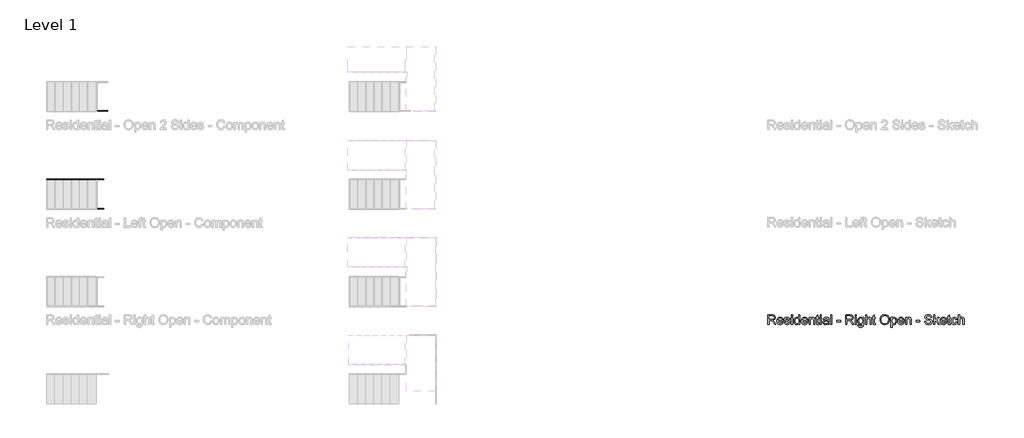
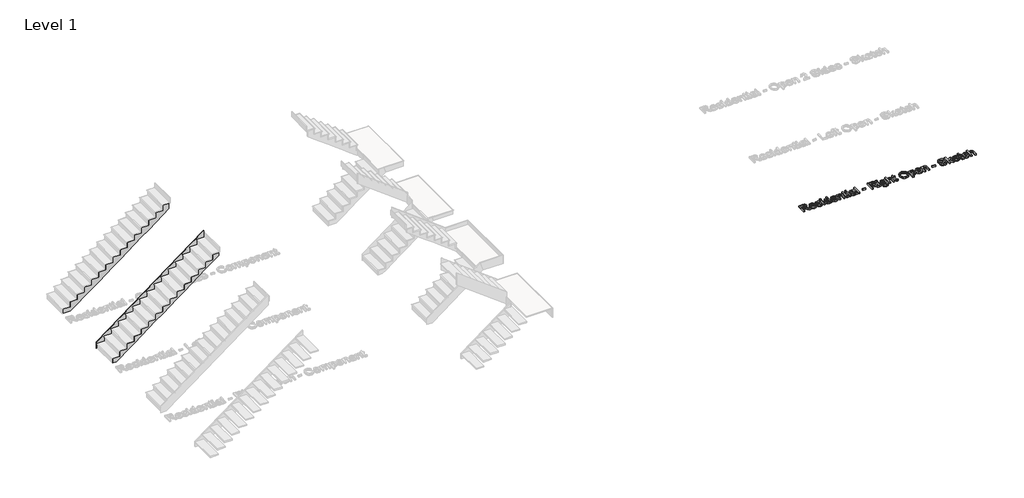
# One storey, part 13 of 26: 3 members, 1 proxy.
"""IFC4 building model written with IfcOpenShell, lengths in millimetres."""

from ifc_helpers import new_model, si_unit, frame, origin, origin_with_axes, place, context, project, spatial, polyline, outline, extrude, faceted_brep, element, save

model = new_model("IFC4")

# Units and contexts
model_context = context("Model", 3, world=origin())
ifc_project = project(units=[si_unit("LENGTHUNIT", "METRE", prefix="MILLI")], contexts=[model_context])

# Site, building, storey
site = spatial("IfcSite", under=ifc_project)
building = spatial("IfcBuilding", under=site)
storey = spatial("IfcBuildingStorey", under=building, Name="Level 1", Elevation=0.0)

# Proxy
placement = place(None, origin())
element("IfcBuildingElementProxy", 1, Name="12\" Arial", ObjectType="12\" Arial", at=placement, inside=storey, context=model_context, shape_type="SweptSolid", body=[
    extrude(outline(polyline([(-4715.4981187, -2715.1232123), (-4715.4981187, -2415.012443), (-4586.1779264, -2415.012443), (-4551.420835, -2417.0365055), (-4526.1337918, -2423.108693), (-4507.6516283, -2434.3188854), (-4493.3091764, -2451.7569623), (-4484.1047293, -2473.380544), (-4481.0365802, -2497.1472507), (-4486.1196331, -2526.7113854), (-4501.3687918, -2551.219943), (-4512.9201439, -2561.2074551), (-4527.2419889, -2569.1892219), (-4564.1971571, -2579.13552), (-4542.875811, -2595.1814815), (-4512.4690802, -2633.7943661), (-4462.4261956, -2715.1232123), (-4506.0213879, -2715.1232123), (-4545.0738879, -2652.9176354), (-4573.2825418, -2611.7403277), (-4593.1018687, -2592.2873469), (-4610.9429264, -2585.1435969), (-4632.7038879, -2583.8247507), (-4677.9842725, -2583.8247507), (-4677.9842725, -2715.1232123), (-4715.4981187, -2715.1232123)]), holes=[polyline([(-4677.9842725, -2546.3109046), (-4594.0177341, -2546.3109046), (-4569.9029985, -2544.9828998), (-4551.1918687, -2540.9988854), (-4537.1058591, -2534.0932604), (-4526.8664841, -2524.0004238), (-4520.6294408, -2511.7919382), (-4518.5504264, -2498.5393661), (-4522.5161235, -2480.2403757), (-4534.4132148, -2465.494943), (-4554.8828062, -2455.7684527), (-4584.5660033, -2452.5262892), (-4677.9842725, -2452.5262892), (-4677.9842725, -2546.3109046)])]), origin_with_axes(), (0.0, 0.0, 1.0), 50.8),
    extrude(outline(polyline([(-4265.7715802, -2649.4739815), (-4228.9904264, -2654.1632123), (-4242.2429985, -2681.8772988), (-4263.3903302, -2702.5941738), (-4291.9561716, -2715.5078757), (-4327.4642725, -2719.812443), (-4350.7409913, -2717.955526), (-4371.4807629, -2712.3847748), (-4389.6835874, -2703.1001894), (-4405.3494648, -2690.10177), (-4417.9471932, -2673.7512832), (-4426.9455706, -2654.4104959), (-4432.344597, -2632.0794082), (-4434.1442725, -2606.75802), (-4432.3262797, -2580.5780079), (-4426.8723014, -2557.5027796), (-4417.7823374, -2537.5323349), (-4405.0563879, -2520.6666738), (-4389.4317244, -2507.2675632), (-4371.6456187, -2497.69677), (-4351.6980706, -2491.954294), (-4329.5890802, -2490.0401354), (-4308.1921752, -2491.9497147), (-4288.8422293, -2497.6784527), (-4271.5392425, -2507.2263493), (-4256.2832148, -2520.5934046), (-4243.8297353, -2537.422431), (-4234.9343927, -2557.3562411), (-4229.5971872, -2580.3948349), (-4227.8181187, -2606.5382123), (-4228.0379264, -2616.6493661), (-4396.6304264, -2616.6493661), (-4390.1369408, -2644.7297988), (-4375.0526379, -2665.3734046), (-4353.2825177, -2678.0672988), (-4326.7315802, -2682.2985969), (-4306.7657148, -2680.338645), (-4289.9504264, -2674.4587892), (-4276.2857148, -2664.2926834), (-4265.7715802, -2649.4739815)]), holes=[polyline([(-4396.6304264, -2579.13552), (-4265.3319648, -2579.13552), (-4270.4058591, -2559.316193), (-4280.3521571, -2545.1385969), (-4302.2230225, -2531.9501354), (-4329.7356187, -2527.5539815), (-4355.0226619, -2531.0617459), (-4375.9318687, -2541.5850392), (-4390.4666523, -2557.9881882), (-4396.6304264, -2579.13552)])]), origin_with_axes(), (0.0, 0.0, 1.0), 50.8),
    extrude(outline(polyline([(-4204.3719648, -2649.4739815), (-4166.8581187, -2644.7847507), (-4160.9416283, -2660.8307123), (-4149.493311, -2672.6270584), (-4132.4398975, -2679.8807123), (-4109.7081187, -2682.2985969), (-4087.2510994, -2680.0822027), (-4071.4615802, -2673.43302), (-4062.1197533, -2663.7981161), (-4059.005811, -2652.6245584), (-4062.1380706, -2643.0629238), (-4071.5348494, -2635.7726354), (-4110.1477341, -2625.0753277), (-4166.638311, -2606.7213854), (-4180.9349696, -2597.4986209), (-4191.2934071, -2585.2901354), (-4197.5854023, -2570.8744142), (-4199.6827341, -2555.029943), (-4197.9975418, -2540.4951594), (-4192.9419648, -2527.0777315), (-4184.973936, -2515.3088613), (-4174.5513879, -2505.7197507), (-4150.7022533, -2494.6194623), (-4118.4271571, -2490.0401354), (-4094.010186, -2491.8810248), (-4072.7804264, -2497.403693), (-4055.7086956, -2506.0677796), (-4043.765811, -2517.3329238), (-4035.8527341, -2532.0325632), (-4030.8704264, -2551.0001354), (-4068.3842725, -2555.6893661), (-4073.1192966, -2543.8838613), (-4082.4885994, -2534.9908084), (-4096.5837677, -2529.4131882), (-4115.4963879, -2527.5539815), (-4137.0375418, -2529.3307604), (-4151.398311, -2534.6610969), (-4159.4762437, -2542.3543661), (-4162.1688879, -2551.219943), (-4157.6994648, -2562.1370584), (-4143.7050418, -2570.4164815), (-4111.393311, -2578.4028277), (-4056.3314841, -2596.0607123), (-4041.7875418, -2604.5049911), (-4030.7605225, -2616.0632123), (-4023.8091043, -2630.7720104), (-4021.4919648, -2648.66802), (-4024.212085, -2667.1685007), (-4032.3724456, -2684.569943), (-4045.6616523, -2699.5077075), (-4063.768311, -2710.6171546), (-4085.6391764, -2717.5136209), (-4110.2210033, -2719.812443), (-4148.0462437, -2715.3796546), (-4175.6504264, -2702.0812892), (-4194.0776379, -2680.0638854), (-4204.3719648, -2649.4739815)])), origin_with_axes(), (0.0, 0.0, 1.0), 50.8),
    extrude(outline(polyline([(-3979.2888879, -2715.1232123), (-3979.2888879, -2494.7293661), (-3941.7750418, -2494.7293661), (-3941.7750418, -2715.1232123), (-3979.2888879, -2715.1232123)])), origin_with_axes(), (0.0, 0.0, 1.0), 50.8),
    extrude(outline(polyline([(-3979.2888879, -2452.5262892), (-3979.2888879, -2415.012443), (-3941.7750418, -2415.012443), (-3941.7750418, -2452.5262892), (-3979.2888879, -2452.5262892)])), origin_with_axes(), (0.0, 0.0, 1.0), 50.8),
    extrude(outline(polyline([(-3749.5165802, -2715.1232123), (-3749.5165802, -2679.7341738), (-3760.7405105, -2697.2684166), (-3774.3365321, -2709.7928757), (-3790.3046451, -2717.3075512), (-3808.6448494, -2719.812443), (-3832.8969648, -2716.1856161), (-3855.0975418, -2705.3051354), (-3873.8910994, -2687.931169), (-3887.9221571, -2664.8238854), (-3896.6595129, -2636.9174671), (-3899.5719648, -2605.1460969), (-3896.8884793, -2573.7685488), (-3888.8380225, -2545.4316738), (-3875.4297533, -2521.747395), (-3856.6728302, -2504.3276354), (-3833.9868446, -2493.6120104), (-3808.7913879, -2490.0401354), (-3790.4374456, -2492.5953998), (-3774.208311, -2500.261193), (-3760.4520129, -2512.0117459), (-3749.5165802, -2526.8212892), (-3749.5165802, -2415.012443), (-3712.0027341, -2415.012443), (-3712.0027341, -2715.1232123), (-3749.5165802, -2715.1232123)]), holes=[polyline([(-3862.0581187, -2604.9995584), (-3857.8268206, -2638.9323709), (-3845.1329264, -2663.0654238), (-3826.6873975, -2677.4903036), (-3805.2011956, -2682.2985969), (-3783.7241523, -2677.7101113), (-3765.7457148, -2663.9446546), (-3753.5738639, -2640.7457844), (-3749.5165802, -2607.8570584), (-3753.6471331, -2571.9001834), (-3766.0387918, -2546.9703277), (-3784.4751619, -2532.408068), (-3806.7398494, -2527.5539815), (-3828.4458591, -2532.2157363), (-3846.2319648, -2546.2010007), (-3858.1015802, -2570.2241498), (-3862.0581187, -2604.9995584)])]), origin_with_axes(), (0.0, 0.0, 1.0), 50.8),
    extrude(outline(polyline([(-3501.4269648, -2649.4739815), (-3464.645811, -2654.1632123), (-3477.8983831, -2681.8772988), (-3499.0457148, -2702.5941738), (-3527.6115562, -2715.5078757), (-3563.1196571, -2719.812443), (-3586.3963759, -2717.955526), (-3607.1361475, -2712.3847748), (-3625.338972, -2703.1001894), (-3641.0048494, -2690.10177), (-3653.6025778, -2673.7512832), (-3662.6009552, -2654.4104959), (-3667.9999817, -2632.0794082), (-3669.7996571, -2606.75802), (-3667.9816643, -2580.5780079), (-3662.527686, -2557.5027796), (-3653.437722, -2537.5323349), (-3640.7117725, -2520.6666738), (-3625.0871091, -2507.2675632), (-3607.3010033, -2497.69677), (-3587.3534552, -2491.954294), (-3565.2444648, -2490.0401354), (-3543.8475598, -2491.9497147), (-3524.4976139, -2497.6784527), (-3507.1946271, -2507.2263493), (-3491.9385994, -2520.5934046), (-3479.4851199, -2537.422431), (-3470.5897773, -2557.3562411), (-3465.2525718, -2580.3948349), (-3463.4735033, -2606.5382123), (-3463.693311, -2616.6493661), (-3632.285811, -2616.6493661), (-3625.7923254, -2644.7297988), (-3610.7080225, -2665.3734046), (-3588.9379023, -2678.0672988), (-3562.3869648, -2682.2985969), (-3542.4210994, -2680.338645), (-3525.605811, -2674.4587892), (-3511.9410994, -2664.2926834), (-3501.4269648, -2649.4739815)]), holes=[polyline([(-3632.285811, -2579.13552), (-3500.9873494, -2579.13552), (-3506.0612437, -2559.316193), (-3516.0075418, -2545.1385969), (-3537.8784071, -2531.9501354), (-3565.3910033, -2527.5539815), (-3590.6780466, -2531.0617459), (-3611.5872533, -2541.5850392), (-3626.1220369, -2557.9881882), (-3632.285811, -2579.13552)])]), origin_with_axes(), (0.0, 0.0, 1.0), 50.8),
    extrude(outline(polyline([(-3425.9596571, -2715.1232123), (-3425.9596571, -2494.7293661), (-3388.445811, -2494.7293661), (-3388.445811, -2525.502443), (-3375.4130466, -2509.9876834), (-3359.7609071, -2498.9057123), (-3341.4893927, -2492.2565296), (-3320.5985033, -2490.0401354), (-3302.1071812, -2491.8260729), (-3285.1728302, -2497.1838854), (-3271.050186, -2505.4449911), (-3260.9939841, -2515.9408084), (-3249.7471571, -2543.5266738), (-3247.7688879, -2579.794943), (-3247.7688879, -2715.1232123), (-3285.2827341, -2715.1232123), (-3285.2827341, -2584.85052), (-3289.6056187, -2551.6595584), (-3295.5862196, -2541.7773709), (-3304.8822533, -2534.1115777), (-3316.7976619, -2529.1933805), (-3330.6363879, -2527.5539815), (-3352.6079985, -2531.2357604), (-3371.3374456, -2542.2810969), (-3378.8223555, -2551.2977916), (-3384.1687196, -2563.6207604), (-3388.445811, -2598.18552), (-3388.445811, -2715.1232123), (-3425.9596571, -2715.1232123)])), origin_with_axes(), (0.0, 0.0, 1.0), 50.8),
    extrude(outline(polyline([(-3116.4704264, -2683.8372507), (-3111.7811956, -2716.2222507), (-3139.843311, -2719.812443), (-3157.8492244, -2718.2554719), (-3171.275811, -2713.5845584), (-3180.7641764, -2706.3858565), (-3186.9554264, -2697.24552), (-3190.3624456, -2681.5475873), (-3191.4981187, -2654.6760969), (-3191.4981187, -2532.2432123), (-3219.6335033, -2532.2432123), (-3219.6335033, -2494.7293661), (-3191.4981187, -2494.7293661), (-3191.4981187, -2441.1695584), (-3153.9842725, -2419.11552), (-3153.9842725, -2494.7293661), (-3116.4704264, -2494.7293661), (-3116.4704264, -2532.2432123), (-3153.9842725, -2532.2432123), (-3153.9842725, -2653.5770584), (-3152.0060033, -2672.9201354), (-3145.5949456, -2679.7708084), (-3132.8094648, -2682.2985969), (-3116.4704264, -2683.8372507)])), origin_with_axes(), (0.0, 0.0, 1.0), 50.8),
    extrude(outline(polyline([(-3078.9565802, -2715.1232123), (-3078.9565802, -2494.7293661), (-3041.4427341, -2494.7293661), (-3041.4427341, -2715.1232123), (-3078.9565802, -2715.1232123)])), origin_with_axes(), (0.0, 0.0, 1.0), 50.8),
    extrude(outline(polyline([(-3078.9565802, -2452.5262892), (-3078.9565802, -2415.012443), (-3041.4427341, -2415.012443), (-3041.4427341, -2452.5262892), (-3078.9565802, -2452.5262892)])), origin_with_axes(), (0.0, 0.0, 1.0), 50.8),
    extrude(outline(polyline([(-2844.4950418, -2686.9878277), (-2862.4185273, -2702.3560488), (-2880.8732148, -2712.4122507), (-2900.2804023, -2717.962395), (-2921.0613879, -2719.812443), (-2952.41146, -2715.3613373), (-2975.537061, -2702.00802), (-2989.797085, -2681.7307604), (-2994.5504264, -2656.5078277), (-2992.7553302, -2640.9564334), (-2987.3700418, -2626.8337892), (-2979.0631427, -2614.7443661), (-2968.5032148, -2605.2926354), (-2942.2361956, -2592.9834046), (-2909.7779264, -2587.3416738), (-2871.4214841, -2581.4068661), (-2844.7148494, -2574.4462892), (-2844.4950418, -2566.0935969), (-2847.0777821, -2549.3515777), (-2854.8260033, -2538.3978277), (-2872.1541764, -2530.264943), (-2896.2963879, -2527.5539815), (-2918.6435033, -2529.3582363), (-2934.2498494, -2534.7710007), (-2944.8922052, -2544.7814094), (-2952.3473494, -2560.3785969), (-2989.8611956, -2555.6893661), (-2983.3493927, -2535.1739815), (-2973.632061, -2519.0547507), (-2959.8024937, -2506.7272027), (-2940.9539841, -2497.5868661), (-2917.9016523, -2491.926818), (-2891.4606187, -2490.0401354), (-2866.1003062, -2491.7070104), (-2845.997061, -2496.7076354), (-2830.8394889, -2504.2268902), (-2820.3161956, -2513.4496546), (-2813.3373014, -2524.8521786), (-2808.8129264, -2538.9107123), (-2806.9811956, -2571.7353277), (-2806.9811956, -2618.4078277), (-2805.0761956, -2683.5808084), (-2797.6027341, -2715.1232123), (-2835.1165802, -2715.1232123), (-2844.4950418, -2686.9878277)]), holes=[polyline([(-2844.4950418, -2611.9601354), (-2905.0154264, -2623.4634046), (-2937.2905225, -2629.5447507), (-2951.9077341, -2639.4360969), (-2957.0365802, -2653.8701354), (-2954.2431908, -2665.0253757), (-2945.8630225, -2674.1657123), (-2932.0792485, -2680.2653757), (-2913.0750418, -2682.2985969), (-2892.9260033, -2680.0547267), (-2875.1215802, -2673.3231161), (-2860.6875418, -2663.404294), (-2850.6496571, -2651.5987892), (-2846.1985514, -2639.4360969), (-2844.7148494, -2622.5841738), (-2844.4950418, -2611.9601354)])]), origin_with_axes(), (0.0, 0.0, 1.0), 50.8),
    extrude(outline(polyline([(-2755.3996571, -2715.1232123), (-2755.3996571, -2415.012443), (-2717.885811, -2415.012443), (-2717.885811, -2715.1232123), (-2755.3996571, -2715.1232123)])), origin_with_axes(), (0.0, 0.0, 1.0), 50.8),
    extrude(outline(polyline([(-2563.1411956, -2626.0278277), (-2563.1411956, -2588.5139815), (-2445.9104264, -2588.5139815), (-2445.9104264, -2626.0278277), (-2563.1411956, -2626.0278277)])), origin_with_axes(), (0.0, 0.0, 1.0), 50.8),
    extrude(outline(polyline([(-2281.7873494, -2715.1232123), (-2281.7873494, -2415.012443), (-2152.4671571, -2415.012443), (-2117.7100658, -2417.0365055), (-2092.4230225, -2423.108693), (-2073.9408591, -2434.3188854), (-2059.5984071, -2451.7569623), (-2050.39396, -2473.380544), (-2047.325811, -2497.1472507), (-2052.4088639, -2526.7113854), (-2067.6580225, -2551.219943), (-2079.2093747, -2561.2074551), (-2093.5312196, -2569.1892219), (-2130.4863879, -2579.13552), (-2109.1650418, -2595.1814815), (-2078.758311, -2633.7943661), (-2028.7154264, -2715.1232123), (-2072.3106187, -2715.1232123), (-2111.3631187, -2652.9176354), (-2139.5717725, -2611.7403277), (-2159.3910994, -2592.2873469), (-2177.2321571, -2585.1435969), (-2198.9931187, -2583.8247507), (-2244.2735033, -2583.8247507), (-2244.2735033, -2715.1232123), (-2281.7873494, -2715.1232123)]), holes=[polyline([(-2244.2735033, -2546.3109046), (-2160.3069648, -2546.3109046), (-2136.1922293, -2544.9828998), (-2117.4810994, -2540.9988854), (-2103.3950898, -2534.0932604), (-2093.1557148, -2524.0004238), (-2086.9186716, -2511.7919382), (-2084.8396571, -2498.5393661), (-2088.8053543, -2480.2403757), (-2100.7024456, -2465.494943), (-2121.1720369, -2455.7684527), (-2150.8552341, -2452.5262892), (-2244.2735033, -2452.5262892), (-2244.2735033, -2546.3109046)])]), origin_with_axes(), (0.0, 0.0, 1.0), 50.8),
    extrude(outline(polyline([(-1986.365811, -2715.1232123), (-1986.365811, -2494.7293661), (-1948.8519648, -2494.7293661), (-1948.8519648, -2715.1232123), (-1986.365811, -2715.1232123)])), origin_with_axes(), (0.0, 0.0, 1.0), 50.8),
    extrude(outline(polyline([(-1986.365811, -2452.5262892), (-1986.365811, -2415.012443), (-1948.8519648, -2415.012443), (-1948.8519648, -2452.5262892), (-1986.365811, -2452.5262892)])), origin_with_axes(), (0.0, 0.0, 1.0), 50.8),
    extrude(outline(polyline([(-1901.9596571, -2733.8801354), (-1864.445811, -2738.5693661), (-1860.3060994, -2750.292443), (-1852.2831187, -2758.3520584), (-1836.5119168, -2764.6165777), (-1815.868311, -2766.7047507), (-1793.8509071, -2764.341818), (-1777.4752341, -2757.25302), (-1766.1185033, -2745.8962892), (-1759.1579264, -2730.7295584), (-1756.5935033, -2686.9878277), (-1769.0767485, -2699.2970584), (-1783.007061, -2708.0893661), (-1798.3844408, -2713.3647507), (-1815.2088879, -2715.1232123), (-1835.7769348, -2713.0762531), (-1853.8858831, -2706.9353757), (-1869.5357329, -2696.7005801), (-1882.7264841, -2682.3718661), (-1893.1925357, -2665.1810729), (-1900.6682869, -2646.3600392), (-1905.1537377, -2625.9087652), (-1906.6488879, -2603.8272507), (-1903.9654023, -2573.5395825), (-1895.9149456, -2545.6881161), (-1882.781436, -2522.0862652), (-1864.8487918, -2504.547443), (-1842.7306427, -2493.6669623), (-1817.0406187, -2490.0401354), (-1799.4972172, -2492.0916738), (-1783.5748975, -2498.2462892), (-1769.2736595, -2508.5039815), (-1756.5935033, -2522.8647507), (-1756.5935033, -2494.7293661), (-1719.0796571, -2494.7293661), (-1719.0796571, -2685.0095584), (-1721.6440802, -2728.9436209), (-1729.3373494, -2757.8758084), (-1742.5899216, -2777.0631882), (-1761.8322533, -2791.7628277), (-1786.6430466, -2801.1046546), (-1816.6010033, -2804.2185969), (-1851.5046331, -2799.8316017), (-1878.9897533, -2786.6706161), (-1889.3413218, -2776.7907183), (-1896.6201619, -2764.6990055), (-1900.8262737, -2750.3954779), (-1901.9596571, -2733.8801354)]), holes=[polyline([(-1869.1350418, -2601.2628277), (-1865.13271, -2635.6718902), (-1853.1257148, -2659.328693), (-1835.0740081, -2673.0391979), (-1812.9375418, -2677.6093661), (-1790.9659312, -2673.0666738), (-1772.8226379, -2659.4385969), (-1760.6507869, -2636.0840296), (-1756.5935033, -2602.3618661), (-1760.7698494, -2569.8394863), (-1773.2988879, -2546.4208084), (-1791.7077821, -2532.2706882), (-1813.5236956, -2527.5539815), (-1834.9457869, -2532.197419), (-1852.9059071, -2546.1277315), (-1865.0777581, -2569.1983805), (-1869.1350418, -2601.2628277)])]), origin_with_axes(), (0.0, 0.0, 1.0), 50.8),
    extrude(outline(polyline([(-1662.8088879, -2715.1232123), (-1662.8088879, -2415.012443), (-1625.2950418, -2415.012443), (-1625.2950418, -2525.3559046), (-1611.515847, -2509.9052555), (-1596.0423014, -2498.8690777), (-1578.8744047, -2492.2473709), (-1560.0121571, -2490.0401354), (-1537.3536475, -2492.4488613), (-1517.8823494, -2499.6750392), (-1502.5507629, -2511.1508325), (-1492.3113879, -2526.3084046), (-1486.541436, -2547.1351834), (-1484.6181187, -2575.6185969), (-1484.6181187, -2715.1232123), (-1522.1319648, -2715.1232123), (-1522.1319648, -2579.5018661), (-1525.117686, -2556.0190777), (-1534.0748494, -2539.9364815), (-1548.5088879, -2530.6496065), (-1567.9252341, -2527.5539815), (-1583.7788639, -2529.6421546), (-1598.6616764, -2535.9066738), (-1610.9892244, -2545.743068), (-1619.177061, -2558.5468661), (-1623.7655466, -2575.563645), (-1625.2950418, -2598.0389815), (-1625.2950418, -2715.1232123), (-1662.8088879, -2715.1232123)])), origin_with_axes(), (0.0, 0.0, 1.0), 50.8),
    extrude(outline(polyline([(-1353.3196571, -2683.8372507), (-1348.6304264, -2716.2222507), (-1376.6925418, -2719.812443), (-1394.6984552, -2718.2554719), (-1408.1250418, -2713.5845584), (-1417.6134071, -2706.3858565), (-1423.8046571, -2697.24552), (-1427.2116764, -2681.5475873), (-1428.3473494, -2654.6760969), (-1428.3473494, -2532.2432123), (-1456.4827341, -2532.2432123), (-1456.4827341, -2494.7293661), (-1428.3473494, -2494.7293661), (-1428.3473494, -2441.1695584), (-1390.8335033, -2419.11552), (-1390.8335033, -2494.7293661), (-1353.3196571, -2494.7293661), (-1353.3196571, -2532.2432123), (-1390.8335033, -2532.2432123), (-1390.8335033, -2653.5770584), (-1388.8552341, -2672.9201354), (-1382.4441764, -2679.7708084), (-1369.6586956, -2682.2985969), (-1353.3196571, -2683.8372507)])), origin_with_axes(), (0.0, 0.0, 1.0), 50.8),
    extrude(outline(polyline([(-1207.9535033, -2569.0243661), (-1205.4531908, -2533.8230801), (-1197.9522533, -2502.6607604), (-1185.4506908, -2475.537407), (-1167.9485033, -2452.45302), (-1146.4943567, -2434.0212291), (-1122.1369168, -2420.8556642), (-1094.8761836, -2412.9563253), (-1064.7121571, -2410.3232123), (-1025.3482629, -2415.2688854), (-990.050811, -2430.1059046), (-960.7431187, -2453.7901834), (-939.3485033, -2485.2776354), (-926.2699456, -2523.0479238), (-921.9104264, -2565.5807123), (-926.4989119, -2608.6813373), (-940.2643687, -2646.9828277), (-962.4466283, -2678.5252315), (-992.2855225, -2701.3485969), (-1027.2807389, -2715.1964815), (-1064.9319648, -2719.812443), (-1104.9003302, -2714.7110729), (-1140.3992725, -2699.4069623), (-1169.6336956, -2675.283068), (-1190.8085033, -2643.7223469), (-1203.6672533, -2607.4082844), (-1207.9535033, -2569.0243661)]), holes=[polyline([(-1170.4396571, -2569.3907123), (-1168.5644228, -2594.2610368), (-1162.9387196, -2616.3379719), (-1153.5625478, -2635.6215176), (-1140.4359071, -2652.1116738), (-1124.4792425, -2665.3184527), (-1106.6129985, -2674.7518661), (-1086.8371752, -2680.4119142), (-1065.1517725, -2682.2985969), (-1043.0954444, -2680.3935969), (-1023.0860754, -2674.6785969), (-1005.1236655, -2665.1535969), (-989.2082148, -2651.8185969), (-976.1777401, -2634.9804118), (-966.8702581, -2614.9458565), (-961.2857689, -2591.714931), (-959.4242725, -2565.2876354), (-962.6114841, -2532.0783565), (-972.1731187, -2503.3751354), (-987.8618927, -2479.9015055), (-1009.4305225, -2462.3810007), (-1035.4502581, -2451.473044), (-1064.4923494, -2447.8370584), (-1085.4244528, -2449.588651), (-1104.8453783, -2454.8434286), (-1122.7551259, -2463.6013914), (-1139.1536956, -2475.8625392), (-1152.8413038, -2492.2176053), (-1162.6181668, -2513.2573229), (-1168.4842845, -2538.9816918), (-1170.4396571, -2569.3907123)])]), origin_with_axes(), (0.0, 0.0, 1.0), 50.8),
    extrude(outline(polyline([(-875.0181187, -2799.5293661), (-875.0181187, -2494.7293661), (-837.5042725, -2494.7293661), (-837.5042725, -2531.51052), (-825.268311, -2513.3672267), (-811.5669648, -2500.4077315), (-795.5942725, -2492.6320344), (-776.5442725, -2490.0401354), (-751.1748014, -2493.6669623), (-728.9925418, -2504.547443), (-710.9316764, -2522.0221546), (-697.9263879, -2545.4316738), (-690.0682629, -2573.0724911), (-687.4488879, -2603.2410969), (-690.4071331, -2635.3238613), (-699.2818687, -2664.0179238), (-713.7891764, -2687.8670584), (-733.6451379, -2705.4150392), (-756.7707389, -2716.2130921), (-781.0869648, -2719.812443), (-798.33271, -2717.4037171), (-813.7284071, -2710.1775392), (-826.90771, -2699.2695825), (-837.5042725, -2685.81552), (-837.5042725, -2799.5293661), (-875.0181187, -2799.5293661)]), holes=[polyline([(-837.5042725, -2606.6847507), (-833.4469889, -2640.3153277), (-821.2751379, -2663.8347507), (-803.3150177, -2677.6826354), (-781.8929264, -2682.2985969), (-760.1228062, -2677.5177796), (-741.7047533, -2663.1753277), (-729.1482389, -2638.7949911), (-724.9627341, -2603.90052), (-729.0474937, -2570.4531161), (-741.3017725, -2546.6039815), (-759.2344168, -2532.3164815), (-780.3542725, -2527.5539815), (-801.5565562, -2532.6187171), (-820.1760994, -2547.8129238), (-833.1722293, -2572.6603517), (-837.5042725, -2606.6847507)])]), origin_with_axes(), (0.0, 0.0, 1.0), 50.8),
    extrude(outline(polyline([(-490.940811, -2649.4739815), (-454.1596571, -2654.1632123), (-467.4122293, -2681.8772988), (-488.559561, -2702.5941738), (-517.1254023, -2715.5078757), (-552.6335033, -2719.812443), (-575.910222, -2717.955526), (-596.6499937, -2712.3847748), (-614.8528182, -2703.1001894), (-630.5186956, -2690.10177), (-643.116424, -2673.7512832), (-652.1148014, -2654.4104959), (-657.5138278, -2632.0794082), (-659.3135033, -2606.75802), (-657.4955105, -2580.5780079), (-652.0415321, -2557.5027796), (-642.9515682, -2537.5323349), (-630.2256187, -2520.6666738), (-614.6009552, -2507.2675632), (-596.8148494, -2497.69677), (-576.8673014, -2491.954294), (-554.758311, -2490.0401354), (-533.3614059, -2491.9497147), (-514.01146, -2497.6784527), (-496.7084732, -2507.2263493), (-481.4524456, -2520.5934046), (-468.998966, -2537.422431), (-460.1036235, -2557.3562411), (-454.766418, -2580.3948349), (-452.9873494, -2606.5382123), (-453.2071571, -2616.6493661), (-621.7996571, -2616.6493661), (-615.3061716, -2644.7297988), (-600.2218687, -2665.3734046), (-578.4517485, -2678.0672988), (-551.900811, -2682.2985969), (-531.9349456, -2680.338645), (-515.1196571, -2674.4587892), (-501.4549456, -2664.2926834), (-490.940811, -2649.4739815)]), holes=[polyline([(-621.7996571, -2579.13552), (-490.5011956, -2579.13552), (-495.5750898, -2559.316193), (-505.5213879, -2545.1385969), (-527.3922533, -2531.9501354), (-554.9048494, -2527.5539815), (-580.1918927, -2531.0617459), (-601.1010994, -2541.5850392), (-615.6358831, -2557.9881882), (-621.7996571, -2579.13552)])]), origin_with_axes(), (0.0, 0.0, 1.0), 50.8),
    extrude(outline(polyline([(-415.4735033, -2715.1232123), (-415.4735033, -2494.7293661), (-377.9596571, -2494.7293661), (-377.9596571, -2525.502443), (-364.9268927, -2509.9876834), (-349.2747533, -2498.9057123), (-331.0032389, -2492.2565296), (-310.1123494, -2490.0401354), (-291.6210273, -2491.8260729), (-274.6866764, -2497.1838854), (-260.5640321, -2505.4449911), (-250.5078302, -2515.9408084), (-239.2610033, -2543.5266738), (-237.2827341, -2579.794943), (-237.2827341, -2715.1232123), (-274.7965802, -2715.1232123), (-274.7965802, -2584.85052), (-279.1194648, -2551.6595584), (-285.1000658, -2541.7773709), (-294.3960994, -2534.1115777), (-306.3115081, -2529.1933805), (-320.1502341, -2527.5539815), (-342.1218446, -2531.2357604), (-360.8512918, -2542.2810969), (-368.3362016, -2551.2977916), (-373.6825658, -2563.6207604), (-377.9596571, -2598.18552), (-377.9596571, -2715.1232123), (-415.4735033, -2715.1232123)])), origin_with_axes(), (0.0, 0.0, 1.0), 50.8),
    extrude(outline(polyline([(-87.2273494, -2626.0278277), (-87.2273494, -2588.5139815), (30.0034198, -2588.5139815), (30.0034198, -2626.0278277), (-87.2273494, -2626.0278277)])), origin_with_axes(), (0.0, 0.0, 1.0), 50.8),
    extrude(outline(polyline([(180.0588044, -2611.9601354), (217.5726506, -2611.9601354), (221.8772179, -2632.7777555), (229.6620736, -2649.5106161), (241.8064486, -2662.7906642), (259.1895736, -2673.2498469), (280.4376506, -2680.0364094), (304.1768813, -2682.2985969), (325.0769294, -2680.5859286), (343.3759198, -2675.4479238), (358.2037804, -2667.3150392), (368.690439, -2656.6177315), (374.9274823, -2644.3359767), (377.0064967, -2631.4497507), (375.4495256, -2618.8932363), (370.7786121, -2608.0402315), (361.2902467, -2598.7808325), (345.2809198, -2591.0051354), (290.6587082, -2576.6810007), (254.8025784, -2567.201794), (231.8601506, -2558.18052), (213.1856554, -2545.559895), (199.9514006, -2530.264943), (192.0657996, -2512.6253757), (189.4372659, -2492.9709046), (192.6885881, -2470.999294), (202.4425544, -2450.5113854), (218.4427227, -2433.1465777), (240.4326506, -2420.54427), (266.8278909, -2412.8784767), (296.0439967, -2410.3232123), (327.6963044, -2412.9975392), (355.3920736, -2421.02052), (378.1421698, -2434.2272988), (394.9574582, -2452.45302), (405.599814, -2474.5620104), (409.8311121, -2499.4185969), (372.3172659, -2499.4185969), (365.4299582, -2477.0348469), (351.069189, -2460.8789815), (328.6304871, -2451.0975392), (297.5093813, -2447.8370584), (265.6555832, -2451.0609046), (243.8030352, -2460.732443), (231.1640929, -2474.9649911), (226.9511121, -2491.8718661), (229.9368332, -2506.2875873), (238.8939967, -2517.882443), (260.0688044, -2528.2500392), (300.1470736, -2538.837443), (341.5075544, -2548.893645), (366.5289967, -2557.6676354), (387.9144534, -2571.277395), (402.8339006, -2588.0743661), (411.5987323, -2607.8753757), (414.5203429, -2630.4972507), (411.1591169, -2653.6228517), (401.075439, -2675.3746546), (384.6814486, -2694.094943), (362.3892852, -2708.1260007), (335.5819054, -2716.8908325), (305.6422659, -2719.812443), (268.8885881, -2716.6618661), (238.6375544, -2707.2101354), (214.5411361, -2691.4206161), (196.2513044, -2669.2566738), (184.5099102, -2642.2569623), (180.0588044, -2611.9601354)])), origin_with_axes(), (0.0, 0.0, 1.0), 50.8),
    extrude(outline(polyline([(466.1018813, -2715.1232123), (466.1018813, -2415.012443), (503.6157275, -2415.012443), (503.6157275, -2576.27802), (587.7288044, -2494.7293661), (639.6034198, -2494.7293661), (554.4645736, -2577.3037892), (644.2926506, -2715.1232123), (600.4776506, -2715.1232123), (527.5747659, -2603.3876354), (503.6157275, -2626.6139815), (503.6157275, -2715.1232123), (466.1018813, -2715.1232123)])), origin_with_axes(), (0.0, 0.0, 1.0), 50.8),
    extrude(outline(polyline([(831.4222659, -2649.4739815), (868.2034198, -2654.1632123), (854.9508477, -2681.8772988), (833.8035159, -2702.5941738), (805.2376746, -2715.5078757), (769.7295736, -2719.812443), (746.4528549, -2717.955526), (725.7130832, -2712.3847748), (707.5102587, -2703.1001894), (691.8443813, -2690.10177), (679.246653, -2673.7512832), (670.2482756, -2654.4104959), (664.8492491, -2632.0794082), (663.0495736, -2606.75802), (664.8675664, -2580.5780079), (670.3215448, -2557.5027796), (679.4115087, -2537.5323349), (692.1374582, -2520.6666738), (707.7621217, -2507.2675632), (725.5482275, -2497.69677), (745.4957756, -2491.954294), (767.6047659, -2490.0401354), (789.001671, -2491.9497147), (808.3516169, -2497.6784527), (825.6546037, -2507.2263493), (840.9106313, -2520.5934046), (853.3641109, -2537.422431), (862.2594534, -2557.3562411), (867.596659, -2580.3948349), (869.3757275, -2606.5382123), (869.1559198, -2616.6493661), (700.5634198, -2616.6493661), (707.0569054, -2644.7297988), (722.1412082, -2665.3734046), (743.9113284, -2678.0672988), (770.4622659, -2682.2985969), (790.4281313, -2680.338645), (807.2434198, -2674.4587892), (820.9081313, -2664.2926834), (831.4222659, -2649.4739815)]), holes=[polyline([(700.5634198, -2579.13552), (831.8618813, -2579.13552), (826.7879871, -2559.316193), (816.841689, -2545.1385969), (794.9708236, -2531.9501354), (767.4582275, -2527.5539815), (742.1711842, -2531.0617459), (721.2619775, -2541.5850392), (706.7271938, -2557.9881882), (700.5634198, -2579.13552)])]), origin_with_axes(), (0.0, 0.0, 1.0), 50.8),
    extrude(outline(polyline([(986.6064967, -2683.8372507), (991.2957275, -2716.2222507), (963.2336121, -2719.812443), (945.2276986, -2718.2554719), (931.8011121, -2713.5845584), (922.3127467, -2706.3858565), (916.1214967, -2697.24552), (912.7144775, -2681.5475873), (911.5788044, -2654.6760969), (911.5788044, -2532.2432123), (883.4434198, -2532.2432123), (883.4434198, -2494.7293661), (911.5788044, -2494.7293661), (911.5788044, -2441.1695584), (949.0926506, -2419.11552), (949.0926506, -2494.7293661), (986.6064967, -2494.7293661), (986.6064967, -2532.2432123), (949.0926506, -2532.2432123), (949.0926506, -2653.5770584), (951.0709198, -2672.9201354), (957.4819775, -2679.7708084), (970.2674582, -2682.2985969), (986.6064967, -2683.8372507)])), origin_with_axes(), (0.0, 0.0, 1.0), 50.8),
    extrude(outline(polyline([(1164.7972659, -2635.4062892), (1202.3111121, -2640.09552), (1191.8519294, -2673.4604959), (1172.1974582, -2698.67427), (1145.1977467, -2714.5278998), (1112.7028429, -2719.812443), (1091.6631253, -2717.969264), (1072.7985881, -2712.4397267), (1056.1092311, -2703.2238313), (1041.5950544, -2690.3215777), (1029.8467912, -2673.9756702), (1021.4551746, -2654.4288132), (1016.4202046, -2631.6810067), (1014.7418813, -2605.7322507), (1017.60854, -2572.3489575), (1026.2085159, -2543.41677), (1040.679189, -2520.053044), (1061.157939, -2503.3751354), (1085.6573381, -2493.3738854), (1112.1899582, -2490.0401354), (1143.8880592, -2494.6194623), (1169.2300544, -2508.357443), (1187.4099823, -2530.5213854), (1197.6218813, -2560.3785969), (1160.1080352, -2565.0678277), (1153.3031554, -2548.7013132), (1142.7065929, -2536.9690777), (1128.9045015, -2529.9077555), (1112.4830352, -2527.5539815), (1088.2400784, -2532.1882604), (1068.9977467, -2546.0910969), (1056.4412323, -2570.0135007), (1052.2557275, -2604.7064815), (1056.3496457, -2639.8665536), (1068.6314006, -2663.8713854), (1087.5257034, -2677.691794), (1111.4572659, -2682.2985969), (1130.8827707, -2679.4227796), (1146.8096698, -2670.7953277), (1158.3953669, -2656.1964334), (1164.7972659, -2635.4062892)])), origin_with_axes(), (0.0, 0.0, 1.0), 50.8),
    extrude(outline(polyline([(1235.1357275, -2715.1232123), (1235.1357275, -2415.012443), (1272.6495736, -2415.012443), (1272.6495736, -2525.3559046), (1286.4287683, -2509.9052555), (1301.902314, -2498.8690777), (1319.0702107, -2492.2473709), (1337.9324582, -2490.0401354), (1360.5909679, -2492.4488613), (1380.0622659, -2499.6750392), (1395.3938525, -2511.1508325), (1405.6332275, -2526.3084046), (1411.4031794, -2547.1351834), (1413.3264967, -2575.6185969), (1413.3264967, -2715.1232123), (1375.8126506, -2715.1232123), (1375.8126506, -2579.5018661), (1372.8269294, -2556.0190777), (1363.8697659, -2539.9364815), (1349.4357275, -2530.6496065), (1330.0193813, -2527.5539815), (1314.1657515, -2529.6421546), (1299.282939, -2535.9066738), (1286.9553909, -2545.743068), (1278.7675544, -2558.5468661), (1274.1790688, -2575.563645), (1272.6495736, -2598.0389815), (1272.6495736, -2715.1232123), (1235.1357275, -2715.1232123)])), origin_with_axes(), (0.0, 0.0, 1.0), 50.8),
])

# Members
element("IfcMember", 2, ObjectType="Stringer - Unassigned - 3/4\" Width (1)", at=placement, inside=storey, context=model_context, shape_type="Brep", body=[
    faceted_brep([(-27186.3981446, 3974.9628094, 0.0), (-26919.6981446, 3974.9628094, 0.0), (-26919.6981446, 3955.9128094, 0.0), (-27186.3981446, 3955.9128094, 0.0), (-23420.8481446, 3955.9128094, 2624.1375), (-23420.8481446, 3974.9628094, 2624.1375), (-23420.8481446, 3974.9628094, 2832.1), (-23420.8481446, 3955.9128094, 2832.1), (-23630.3981446, 3955.9128094, 2466.975), (-23884.3981446, 3955.9128094, 2276.475), (-24138.3981446, 3955.9128094, 2085.975), (-24392.3981446, 3955.9128094, 1895.475), (-24646.3981446, 3955.9128094, 1704.975), (-24900.3981446, 3955.9128094, 1514.475), (-25154.3981446, 3955.9128094, 1323.975), (-25408.3981446, 3955.9128094, 1133.475), (-25662.3981446, 3955.9128094, 942.975), (-25916.3981446, 3955.9128094, 752.475), (-26170.3981446, 3955.9128094, 561.975), (-26424.3981446, 3955.9128094, 371.475), (-26678.3981446, 3955.9128094, 180.975), (-27186.3981446, 3974.9628094, 157.1625), (-27175.8148113, 3974.9628094, 165.1), (-26932.3981446, 3974.9628094, 165.1), (-26932.3981446, 3974.9628094, 347.6625), (-26921.8148113, 3974.9628094, 355.6), (-26678.3981446, 3974.9628094, 355.6), (-26678.3981446, 3974.9628094, 538.1625), (-26667.8148113, 3974.9628094, 546.1), (-26424.3981446, 3974.9628094, 546.1), (-26424.3981446, 3974.9628094, 728.6625), (-26413.8148113, 3974.9628094, 736.6), (-26170.3981446, 3974.9628094, 736.6), (-26170.3981446, 3974.9628094, 919.1625), (-26159.8148113, 3974.9628094, 927.1), (-25916.3981446, 3974.9628094, 927.1), (-25916.3981446, 3974.9628094, 1109.6625), (-25905.8148113, 3974.9628094, 1117.6), (-25662.3981446, 3974.9628094, 1117.6), (-25662.3981446, 3974.9628094, 1300.1625), (-25651.8148113, 3974.9628094, 1308.1), (-25408.3981446, 3974.9628094, 1308.1), (-25408.3981446, 3974.9628094, 1490.6625), (-25397.8148113, 3974.9628094, 1498.6), (-25154.3981446, 3974.9628094, 1498.6), (-25154.3981446, 3974.9628094, 1681.1625), (-25143.8148113, 3974.9628094, 1689.1), (-24900.3981446, 3974.9628094, 1689.1), (-24900.3981446, 3974.9628094, 1871.6625), (-24889.8148113, 3974.9628094, 1879.6), (-24646.3981446, 3974.9628094, 1879.6), (-24646.3981446, 3974.9628094, 2062.1625), (-24635.8148113, 3974.9628094, 2070.1), (-24392.3981446, 3974.9628094, 2070.1), (-24392.3981446, 3974.9628094, 2252.6625), (-24381.8148113, 3974.9628094, 2260.6), (-24138.3981446, 3974.9628094, 2260.6), (-24138.3981446, 3974.9628094, 2443.1625), (-24127.8148113, 3974.9628094, 2451.1), (-23884.3981446, 3974.9628094, 2451.1), (-23884.3981446, 3974.9628094, 2633.6625), (-23873.8148113, 3974.9628094, 2641.6), (-23630.3981446, 3974.9628094, 2641.6), (-23630.3981446, 3974.9628094, 2824.1625), (-23619.8148113, 3974.9628094, 2832.1), (-23619.8148113, 3955.9128094, 2832.1), (-23630.3981446, 3955.9128094, 2824.1625), (-23630.3981446, 3955.9128094, 2641.6), (-23873.8148113, 3955.9128094, 2641.6), (-23884.3981446, 3955.9128094, 2633.6625), (-23884.3981446, 3955.9128094, 2451.1), (-24127.8148113, 3955.9128094, 2451.1), (-24138.3981446, 3955.9128094, 2443.1625), (-24138.3981446, 3955.9128094, 2260.6), (-24381.8148113, 3955.9128094, 2260.6), (-24392.3981446, 3955.9128094, 2252.6625), (-24392.3981446, 3955.9128094, 2070.1), (-24635.8148113, 3955.9128094, 2070.1), (-24646.3981446, 3955.9128094, 2062.1625), (-24646.3981446, 3955.9128094, 1879.6), (-24889.8148113, 3955.9128094, 1879.6), (-24900.3981446, 3955.9128094, 1871.6625), (-24900.3981446, 3955.9128094, 1689.1), (-25143.8148113, 3955.9128094, 1689.1), (-25154.3981446, 3955.9128094, 1681.1625), (-25154.3981446, 3955.9128094, 1498.6), (-25397.8148113, 3955.9128094, 1498.6), (-25408.3981446, 3955.9128094, 1490.6625), (-25408.3981446, 3955.9128094, 1308.1), (-25651.8148113, 3955.9128094, 1308.1), (-25662.3981446, 3955.9128094, 1300.1625), (-25662.3981446, 3955.9128094, 1117.6), (-25905.8148113, 3955.9128094, 1117.6), (-25916.3981446, 3955.9128094, 1109.6625), (-25916.3981446, 3955.9128094, 927.1), (-26159.8148113, 3955.9128094, 927.1), (-26170.3981446, 3955.9128094, 919.1625), (-26170.3981446, 3955.9128094, 736.6), (-26413.8148113, 3955.9128094, 736.6), (-26424.3981446, 3955.9128094, 728.6625), (-26424.3981446, 3955.9128094, 546.1), (-26667.8148113, 3955.9128094, 546.1), (-26678.3981446, 3955.9128094, 538.1625), (-26678.3981446, 3955.9128094, 355.6), (-26921.8148113, 3955.9128094, 355.6), (-26932.3981446, 3955.9128094, 347.6625), (-26932.3981446, 3955.9128094, 165.1), (-27175.8148113, 3955.9128094, 165.1), (-27186.3981446, 3955.9128094, 157.1625)], [[[0, 1, 2, 3]], [[4, 5, 6, 7]], [[5, 4, 8, 9, 10, 11, 12, 13, 14, 15, 16, 17, 18, 19, 20, 2, 1]], [[6, 5, 1, 0, 21, 22, 23, 24, 25, 26, 27, 28, 29, 30, 31, 32, 33, 34, 35, 36, 37, 38, 39, 40, 41, 42, 43, 44, 45, 46, 47, 48, 49, 50, 51, 52, 53, 54, 55, 56, 57, 58, 59, 60, 61, 62, 63, 64]], [[7, 6, 64, 65]], [[4, 7, 65, 66, 67, 68, 69, 70, 71, 72, 73, 74, 75, 76, 77, 78, 79, 80, 81, 82, 83, 84, 85, 86, 87, 88, 89, 90, 91, 92, 93, 94, 95, 96, 97, 98, 99, 100, 101, 102, 103, 104, 105, 106, 107, 108, 3, 2, 20, 19, 18, 17, 16, 15, 14, 13, 12, 11, 10, 9, 8]], [[108, 107, 22, 21]], [[105, 104, 25, 24]], [[102, 101, 28, 27]], [[99, 98, 31, 30]], [[96, 95, 34, 33]], [[93, 92, 37, 36]], [[90, 89, 40, 39]], [[87, 86, 43, 42]], [[84, 83, 46, 45]], [[81, 80, 49, 48]], [[78, 77, 52, 51]], [[75, 74, 55, 54]], [[72, 71, 58, 57]], [[69, 68, 61, 60]], [[66, 65, 64, 63]], [[106, 23, 22, 107]], [[108, 21, 0, 3]], [[103, 26, 25, 104]], [[23, 106, 105, 24]], [[100, 29, 28, 101]], [[26, 103, 102, 27]], [[97, 32, 31, 98]], [[29, 100, 99, 30]], [[94, 35, 34, 95]], [[32, 97, 96, 33]], [[91, 38, 37, 92]], [[35, 94, 93, 36]], [[88, 41, 40, 89]], [[38, 91, 90, 39]], [[85, 44, 43, 86]], [[41, 88, 87, 42]], [[82, 47, 46, 83]], [[44, 85, 84, 45]], [[79, 50, 49, 80]], [[47, 82, 81, 48]], [[76, 53, 52, 77]], [[50, 79, 78, 51]], [[73, 56, 55, 74]], [[53, 76, 75, 54]], [[70, 59, 58, 71]], [[56, 73, 72, 57]], [[67, 62, 61, 68]], [[59, 70, 69, 60]], [[62, 67, 66, 63]]]),
])
element("IfcMember", 3, at=placement, inside=storey, context=model_context, shape_type="SweptSolid", body=[
    extrude(outline(polyline([(242.8875, -27230.8481446), (0.0, -27230.8481446), (0.0, -27046.6981446), (2719.3875, -23420.8481446), (3100.3875, -23420.8481446), (242.8875, -27230.8481446)])), frame((0.0, 1810.5568972, 0.0), z_axis=(0.0, 1.0, 0.0), x_axis=(0.0, 0.0, 1.0)), (0.0, 0.0, 1.0), 19.05),
])
element("IfcMember", 4, at=placement, inside=storey, context=model_context, shape_type="Brep", body=[
    faceted_brep([(-27186.3981446, 915.2068972, 0.0), (-27046.6981446, 915.2068972, 0.0), (-27046.6981446, 896.1568972, 0.0), (-27186.3981446, 896.1568972, 0.0), (-23420.8481446, 896.1568972, 2719.3875), (-23420.8481446, 915.2068972, 2719.3875), (-23420.8481446, 915.2068972, 2832.1), (-23420.8481446, 896.1568972, 2832.1), (-23630.3981446, 896.1568972, 2562.225), (-23884.3981446, 896.1568972, 2371.725), (-24138.3981446, 896.1568972, 2181.225), (-24392.3981446, 896.1568972, 1990.725), (-24646.3981446, 896.1568972, 1800.225), (-24900.3981446, 896.1568972, 1609.725), (-25154.3981446, 896.1568972, 1419.225), (-25408.3981446, 896.1568972, 1228.725), (-25662.3981446, 896.1568972, 1038.225), (-25916.3981446, 896.1568972, 847.725), (-26170.3981446, 896.1568972, 657.225), (-26424.3981446, 896.1568972, 466.725), (-26678.3981446, 896.1568972, 276.225), (-26932.3981446, 896.1568972, 85.725), (-27186.3981446, 915.2068972, 165.1), (-26932.3981446, 915.2068972, 165.1), (-26932.3981446, 915.2068972, 355.6), (-26678.3981446, 915.2068972, 355.6), (-26678.3981446, 915.2068972, 546.1), (-26424.3981446, 915.2068972, 546.1), (-26424.3981446, 915.2068972, 736.6), (-26170.3981446, 915.2068972, 736.6), (-26170.3981446, 915.2068972, 927.1), (-25916.3981446, 915.2068972, 927.1), (-25916.3981446, 915.2068972, 1117.6), (-25662.3981446, 915.2068972, 1117.6), (-25662.3981446, 915.2068972, 1308.1), (-25408.3981446, 915.2068972, 1308.1), (-25408.3981446, 915.2068972, 1498.6), (-25154.3981446, 915.2068972, 1498.6), (-25154.3981446, 915.2068972, 1689.1), (-24900.3981446, 915.2068972, 1689.1), (-24900.3981446, 915.2068972, 1879.6), (-24646.3981446, 915.2068972, 1879.6), (-24646.3981446, 915.2068972, 2070.1), (-24392.3981446, 915.2068972, 2070.1), (-24392.3981446, 915.2068972, 2260.6), (-24138.3981446, 915.2068972, 2260.6), (-24138.3981446, 915.2068972, 2451.1), (-23884.3981446, 915.2068972, 2451.1), (-23884.3981446, 915.2068972, 2641.6), (-23630.3981446, 915.2068972, 2641.6), (-23630.3981446, 915.2068972, 2832.1), (-23630.3981446, 896.1568972, 2832.1), (-23630.3981446, 896.1568972, 2641.6), (-23884.3981446, 896.1568972, 2641.6), (-23884.3981446, 896.1568972, 2451.1), (-24138.3981446, 896.1568972, 2451.1), (-24138.3981446, 896.1568972, 2260.6), (-24392.3981446, 896.1568972, 2260.6), (-24392.3981446, 896.1568972, 2070.1), (-24646.3981446, 896.1568972, 2070.1), (-24646.3981446, 896.1568972, 1879.6), (-24900.3981446, 896.1568972, 1879.6), (-24900.3981446, 896.1568972, 1689.1), (-25154.3981446, 896.1568972, 1689.1), (-25154.3981446, 896.1568972, 1498.6), (-25408.3981446, 896.1568972, 1498.6), (-25408.3981446, 896.1568972, 1308.1), (-25662.3981446, 896.1568972, 1308.1), (-25662.3981446, 896.1568972, 1117.6), (-25916.3981446, 896.1568972, 1117.6), (-25916.3981446, 896.1568972, 927.1), (-26170.3981446, 896.1568972, 927.1), (-26170.3981446, 896.1568972, 736.6), (-26424.3981446, 896.1568972, 736.6), (-26424.3981446, 896.1568972, 546.1), (-26678.3981446, 896.1568972, 546.1), (-26678.3981446, 896.1568972, 355.6), (-26932.3981446, 896.1568972, 355.6), (-26932.3981446, 896.1568972, 165.1), (-27186.3981446, 896.1568972, 165.1)], [[[0, 1, 2, 3]], [[4, 5, 6, 7]], [[5, 4, 8, 9, 10, 11, 12, 13, 14, 15, 16, 17, 18, 19, 20, 21, 2, 1]], [[6, 5, 1, 0, 22, 23, 24, 25, 26, 27, 28, 29, 30, 31, 32, 33, 34, 35, 36, 37, 38, 39, 40, 41, 42, 43, 44, 45, 46, 47, 48, 49, 50]], [[50, 51, 7, 6]], [[4, 7, 51, 52, 53, 54, 55, 56, 57, 58, 59, 60, 61, 62, 63, 64, 65, 66, 67, 68, 69, 70, 71, 72, 73, 74, 75, 76, 77, 78, 79, 3, 2, 21, 20, 19, 18, 17, 16, 15, 14, 13, 12, 11, 10, 9, 8]], [[22, 79, 78, 23]], [[79, 22, 0, 3]], [[24, 77, 76, 25]], [[23, 78, 77, 24]], [[26, 75, 74, 27]], [[25, 76, 75, 26]], [[28, 73, 72, 29]], [[27, 74, 73, 28]], [[30, 71, 70, 31]], [[29, 72, 71, 30]], [[32, 69, 68, 33]], [[31, 70, 69, 32]], [[34, 67, 66, 35]], [[33, 68, 67, 34]], [[36, 65, 64, 37]], [[35, 66, 65, 36]], [[38, 63, 62, 39]], [[37, 64, 63, 38]], [[40, 61, 60, 41]], [[39, 62, 61, 40]], [[42, 59, 58, 43]], [[41, 60, 59, 42]], [[44, 57, 56, 45]], [[43, 58, 57, 44]], [[46, 55, 54, 47]], [[45, 56, 55, 46]], [[48, 53, 52, 49]], [[47, 54, 53, 48]], [[49, 52, 51, 50]]]),
])

save(model, "model.ifc")
